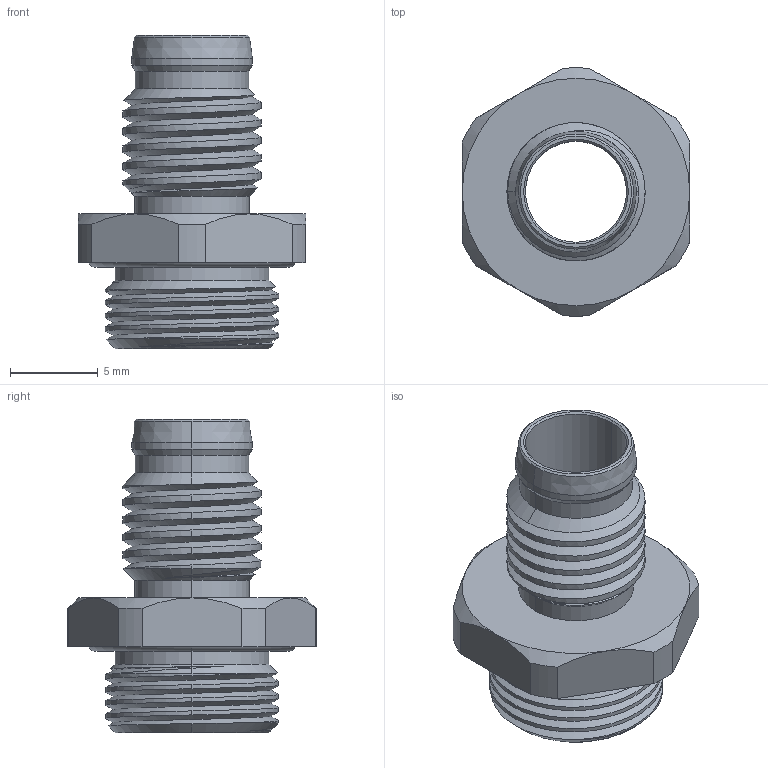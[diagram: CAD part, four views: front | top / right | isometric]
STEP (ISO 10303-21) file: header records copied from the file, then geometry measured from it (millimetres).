
FILE_DESCRIPTION((''),'2;1');
FILE_NAME('229-0003_C_1_ASM','2026-05-21T',('fros.liao'),(''),'CREO PARAMETRIC BY PTC INC, 2018360','CREO PARAMETRIC BY PTC INC, 2018360','');
FILE_SCHEMA(('CONFIG_CONTROL_DESIGN'));
Length unit declared in the file: millimetre
Products named in the file (3): O-RING_10X1; 229-0003; 229-0003_C_1_ASM
Assembly tree (2 placements, depth 2):
  229-0003_C_1_ASM
    O-RING_10X1
    229-0003
Bounding box: 13 x 14.19 x 17.9 mm (x, y, z)
Volume: 555.5 mm3; surface area: 1392.1 mm2
Topology: 2 solids, 2 shells, 106 faces, 250 edges, 150 vertices
Faces by surface type: cylinder 44, cone 28, torus 18, plane 12, bspline 4
Entity records: 8621 total; most frequent: CARTESIAN_POINT 6170, ORIENTED_EDGE 500, DIRECTION 498, EDGE_CURVE 250, AXIS2_PLACEMENT_3D 211, VERTEX_POINT 150, EDGE_LOOP 112, FACE_OUTER_BOUND 106
